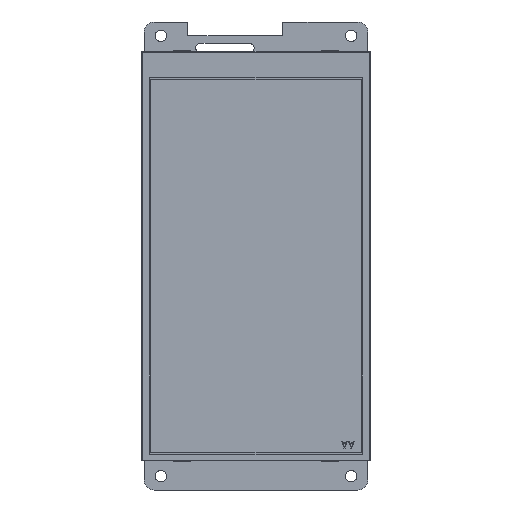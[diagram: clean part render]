
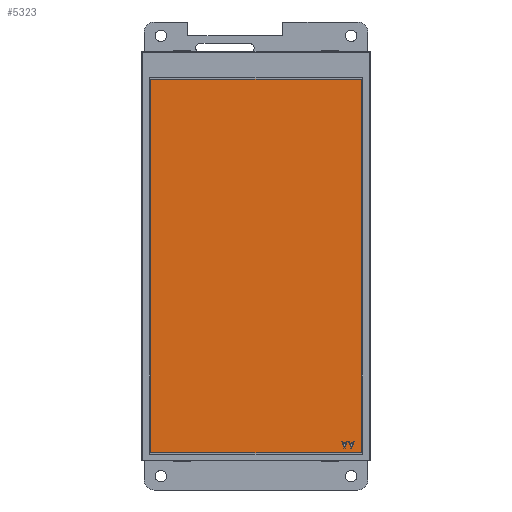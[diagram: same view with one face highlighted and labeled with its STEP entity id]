
A CAD part, front view. The second image highlights one B-rep face of the part: STEP entity #5323.
In plain terms, the highlighted planar face has unit normal (0, -1, 0) as drawn and (0, 1, 0) by its records, which use the part's own axes.
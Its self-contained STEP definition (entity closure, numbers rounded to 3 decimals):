
#4635=DIRECTION('',(0.,0.,1.));
#4636=VECTOR('',#4635,110.4);
#4637=CARTESIAN_POINT('',(-31.05,1.35,-57.92));
#4638=LINE('',#4637,#4636);
#4639=DIRECTION('',(-1.,0.,0.));
#4640=VECTOR('',#4639,62.1);
#4641=CARTESIAN_POINT('',(31.05,1.35,-57.92));
#4642=LINE('',#4641,#4640);
#4643=DIRECTION('',(0.,0.,-1.));
#4644=VECTOR('',#4643,110.4);
#4645=CARTESIAN_POINT('',(31.05,1.35,52.48));
#4646=LINE('',#4645,#4644);
#4647=DIRECTION('',(1.,0.,0.));
#4648=VECTOR('',#4647,62.1);
#4649=CARTESIAN_POINT('',(-31.05,1.35,52.48));
#4650=LINE('',#4649,#4648);
#4651=DIRECTION('',(0.316,0.,0.949));
#4652=VECTOR('',#4651,2.119);
#4653=CARTESIAN_POINT('',(-28.004,1.35,-56.538));
#4654=LINE('',#4653,#4652);
#4655=DIRECTION('',(1.,0.,0.));
#4656=VECTOR('',#4655,0.335);
#4657=CARTESIAN_POINT('',(-28.339,1.35,-56.538));
#4658=LINE('',#4657,#4656);
#4659=DIRECTION('',(0.316,0.,-0.949));
#4660=VECTOR('',#4659,2.119);
#4661=CARTESIAN_POINT('',(-29.009,1.35,-54.528));
#4662=LINE('',#4661,#4660);
#4663=DIRECTION('',(-1.,0.,0.));
#4664=VECTOR('',#4663,0.251);
#4665=CARTESIAN_POINT('',(-28.757,1.35,-54.528));
#4666=LINE('',#4665,#4664);
#4667=DIRECTION('',(-0.31,0.,0.951));
#4668=VECTOR('',#4667,0.54);
#4669=CARTESIAN_POINT('',(-28.59,1.35,-55.041));
#4670=LINE('',#4669,#4668);
#4671=DIRECTION('',(-1.,0.,0.));
#4672=VECTOR('',#4671,0.838);
#4673=CARTESIAN_POINT('',(-27.752,1.35,-55.041));
#4674=LINE('',#4673,#4672);
#4675=DIRECTION('',(-0.31,0.,-0.951));
#4676=VECTOR('',#4675,0.54);
#4677=CARTESIAN_POINT('',(-27.585,1.35,-54.528));
#4678=LINE('',#4677,#4676);
#4679=DIRECTION('',(-1.,0.,0.));
#4680=VECTOR('',#4679,0.251);
#4681=CARTESIAN_POINT('',(-27.334,1.35,-54.528));
#4682=LINE('',#4681,#4680);
#4695=DIRECTION('',(0.316,0.,0.949));
#4696=VECTOR('',#4695,2.119);
#4697=CARTESIAN_POINT('',(-25.994,1.35,-56.538));
#4698=LINE('',#4697,#4696);
#4699=DIRECTION('',(1.,0.,0.));
#4700=VECTOR('',#4699,0.335);
#4701=CARTESIAN_POINT('',(-26.329,1.35,-56.538));
#4702=LINE('',#4701,#4700);
#4703=DIRECTION('',(0.316,0.,-0.949));
#4704=VECTOR('',#4703,2.119);
#4705=CARTESIAN_POINT('',(-26.999,1.35,-54.528));
#4706=LINE('',#4705,#4704);
#4707=DIRECTION('',(-1.,0.,0.));
#4708=VECTOR('',#4707,0.251);
#4709=CARTESIAN_POINT('',(-26.747,1.35,-54.528));
#4710=LINE('',#4709,#4708);
#4711=DIRECTION('',(-0.31,0.,0.951));
#4712=VECTOR('',#4711,0.54);
#4713=CARTESIAN_POINT('',(-26.58,1.35,-55.041));
#4714=LINE('',#4713,#4712);
#4715=DIRECTION('',(-1.,0.,0.));
#4716=VECTOR('',#4715,0.837);
#4717=CARTESIAN_POINT('',(-25.742,1.35,-55.041));
#4718=LINE('',#4717,#4716);
#4719=DIRECTION('',(-0.31,0.,-0.951));
#4720=VECTOR('',#4719,0.54);
#4721=CARTESIAN_POINT('',(-25.575,1.35,-54.528));
#4722=LINE('',#4721,#4720);
#4723=DIRECTION('',(-1.,0.,0.));
#4724=VECTOR('',#4723,0.251);
#4725=CARTESIAN_POINT('',(-25.324,1.35,-54.528));
#4726=LINE('',#4725,#4724);
#4859=CARTESIAN_POINT('',(-31.05,1.35,-57.92));
#4860=CARTESIAN_POINT('',(-31.05,1.35,52.48));
#4861=VERTEX_POINT('',#4859);
#4862=VERTEX_POINT('',#4860);
#4863=CARTESIAN_POINT('',(31.05,1.35,52.48));
#4864=VERTEX_POINT('',#4863);
#4865=CARTESIAN_POINT('',(31.05,1.35,-57.92));
#4866=VERTEX_POINT('',#4865);
#4867=CARTESIAN_POINT('',(-28.004,1.35,-56.538));
#4868=CARTESIAN_POINT('',(-27.334,1.35,-54.528));
#4869=VERTEX_POINT('',#4867);
#4870=VERTEX_POINT('',#4868);
#4871=CARTESIAN_POINT('',(-27.585,1.35,-54.528));
#4872=VERTEX_POINT('',#4871);
#4873=CARTESIAN_POINT('',(-27.752,1.35,-55.041));
#4874=VERTEX_POINT('',#4873);
#4875=CARTESIAN_POINT('',(-28.59,1.35,-55.041));
#4876=VERTEX_POINT('',#4875);
#4877=CARTESIAN_POINT('',(-28.757,1.35,-54.528));
#4878=VERTEX_POINT('',#4877);
#4879=CARTESIAN_POINT('',(-29.009,1.35,-54.528));
#4880=VERTEX_POINT('',#4879);
#4881=CARTESIAN_POINT('',(-28.339,1.35,-56.538));
#4882=VERTEX_POINT('',#4881);
#4889=CARTESIAN_POINT('',(-25.994,1.35,-56.538));
#4890=CARTESIAN_POINT('',(-25.324,1.35,-54.528));
#4891=VERTEX_POINT('',#4889);
#4892=VERTEX_POINT('',#4890);
#4893=CARTESIAN_POINT('',(-25.575,1.35,-54.528));
#4894=VERTEX_POINT('',#4893);
#4895=CARTESIAN_POINT('',(-25.742,1.35,-55.041));
#4896=VERTEX_POINT('',#4895);
#4897=CARTESIAN_POINT('',(-26.58,1.35,-55.041));
#4898=VERTEX_POINT('',#4897);
#4899=CARTESIAN_POINT('',(-26.747,1.35,-54.528));
#4900=VERTEX_POINT('',#4899);
#4901=CARTESIAN_POINT('',(-26.999,1.35,-54.528));
#4902=VERTEX_POINT('',#4901);
#4903=CARTESIAN_POINT('',(-26.329,1.35,-56.538));
#4904=VERTEX_POINT('',#4903);
#5276=CARTESIAN_POINT('',(0.,1.35,0.));
#5277=DIRECTION('',(0.,1.,0.));
#5278=DIRECTION('',(1.,0.,0.));
#5279=AXIS2_PLACEMENT_3D('',#5276,#5277,#5278);
#5280=PLANE('',#5279);
#5281=ORIENTED_EDGE('',*,*,#5228,.F.);
#5282=ORIENTED_EDGE('',*,*,#5243,.F.);
#5283=ORIENTED_EDGE('',*,*,#5257,.F.);
#5284=ORIENTED_EDGE('',*,*,#5270,.F.);
#5285=EDGE_LOOP('',(#5281,#5282,#5283,#5284));
#5286=FACE_OUTER_BOUND('',#5285,.F.);
#5288=ORIENTED_EDGE('',*,*,#5287,.F.);
#5290=ORIENTED_EDGE('',*,*,#5289,.F.);
#5292=ORIENTED_EDGE('',*,*,#5291,.F.);
#5294=ORIENTED_EDGE('',*,*,#5293,.F.);
#5296=ORIENTED_EDGE('',*,*,#5295,.F.);
#5298=ORIENTED_EDGE('',*,*,#5297,.F.);
#5300=ORIENTED_EDGE('',*,*,#5299,.F.);
#5302=ORIENTED_EDGE('',*,*,#5301,.F.);
#5303=EDGE_LOOP('',(#5288,#5290,#5292,#5294,#5296,#5298,#5300,#5302));
#5304=FACE_BOUND('',#5303,.F.);
#5306=ORIENTED_EDGE('',*,*,#5305,.F.);
#5308=ORIENTED_EDGE('',*,*,#5307,.F.);
#5310=ORIENTED_EDGE('',*,*,#5309,.F.);
#5312=ORIENTED_EDGE('',*,*,#5311,.F.);
#5314=ORIENTED_EDGE('',*,*,#5313,.F.);
#5316=ORIENTED_EDGE('',*,*,#5315,.F.);
#5318=ORIENTED_EDGE('',*,*,#5317,.F.);
#5320=ORIENTED_EDGE('',*,*,#5319,.F.);
#5321=EDGE_LOOP('',(#5306,#5308,#5310,#5312,#5314,#5316,#5318,#5320));
#5322=FACE_BOUND('',#5321,.F.);
#5228=EDGE_CURVE('',#4861,#4862,#4638,.T.);
#5243=EDGE_CURVE('',#4866,#4861,#4642,.T.);
#5257=EDGE_CURVE('',#4864,#4866,#4646,.T.);
#5270=EDGE_CURVE('',#4862,#4864,#4650,.T.);
#5287=EDGE_CURVE('',#4869,#4870,#4654,.T.);
#5289=EDGE_CURVE('',#4882,#4869,#4658,.T.);
#5291=EDGE_CURVE('',#4880,#4882,#4662,.T.);
#5293=EDGE_CURVE('',#4878,#4880,#4666,.T.);
#5295=EDGE_CURVE('',#4876,#4878,#4670,.T.);
#5297=EDGE_CURVE('',#4874,#4876,#4674,.T.);
#5299=EDGE_CURVE('',#4872,#4874,#4678,.T.);
#5301=EDGE_CURVE('',#4870,#4872,#4682,.T.);
#5305=EDGE_CURVE('',#4891,#4892,#4698,.T.);
#5307=EDGE_CURVE('',#4904,#4891,#4702,.T.);
#5309=EDGE_CURVE('',#4902,#4904,#4706,.T.);
#5311=EDGE_CURVE('',#4900,#4902,#4710,.T.);
#5313=EDGE_CURVE('',#4898,#4900,#4714,.T.);
#5315=EDGE_CURVE('',#4896,#4898,#4718,.T.);
#5317=EDGE_CURVE('',#4894,#4896,#4722,.T.);
#5319=EDGE_CURVE('',#4892,#4894,#4726,.T.);
#5323=ADVANCED_FACE('',(#5286,#5304,#5322),#5280,.T.);
